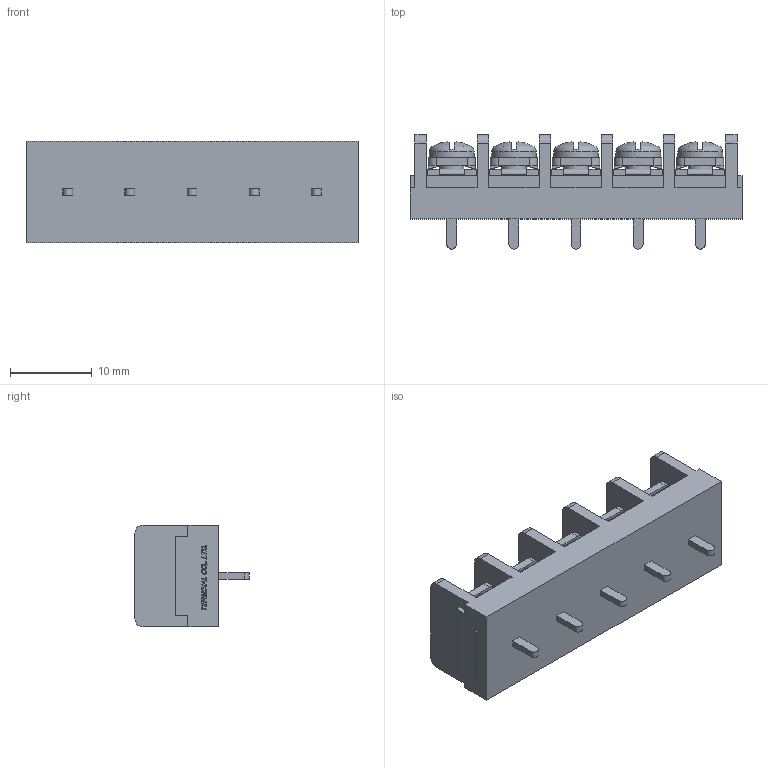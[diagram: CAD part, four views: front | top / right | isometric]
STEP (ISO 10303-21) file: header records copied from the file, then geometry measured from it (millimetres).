
FILE_DESCRIPTION(/* description */ ('Alibre Inc.'),/* implementation_level */ '2;1');
FILE_NAME(/* name */ 'export0',/* time_stamp */ '2015-10-26T16:46:58+09:00',/* author */ (''),/* organization */ (''),/* preprocessor_version */ 'ST-DEVELOPER v14',/* originating_system */ 'Alibre',/* authorisation */ '');
FILE_SCHEMA (('CONFIG_CONTROL_DESIGN'));
Length unit declared in the file: centimetre
Products named in the file (1): ID_1
Bounding box: 40.72 x 14 x 12.5 mm (x, y, z)
Volume: 3689.8 mm3; surface area: 3415 mm2
Topology: 1 solids, 1 shells, 866 faces, 2362 edges, 1558 vertices
Faces by surface type: plane 665, bspline 104, cylinder 57, cone 20, torus 10, sphere 10
Full cylindrical faces by diameter (mm): 3 x5, 5.5 x5
Entity records: 26085 total; most frequent: CARTESIAN_POINT 5875, ORIENTED_EDGE 4664, DIRECTION 3066, EDGE_CURVE 2332, VECTOR 1710, LINE 1710, VERTEX_POINT 1548, AXIS2_PLACEMENT_3D 989
